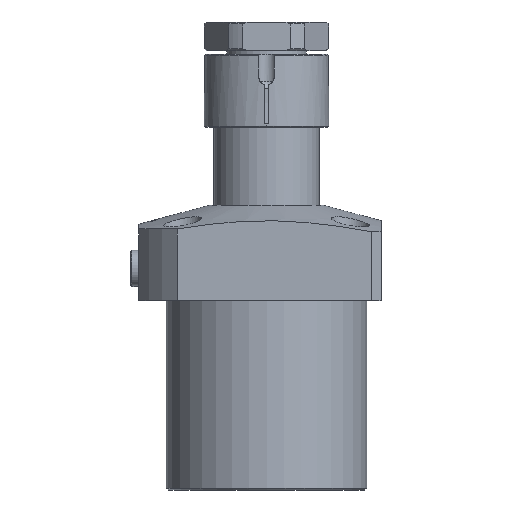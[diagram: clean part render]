
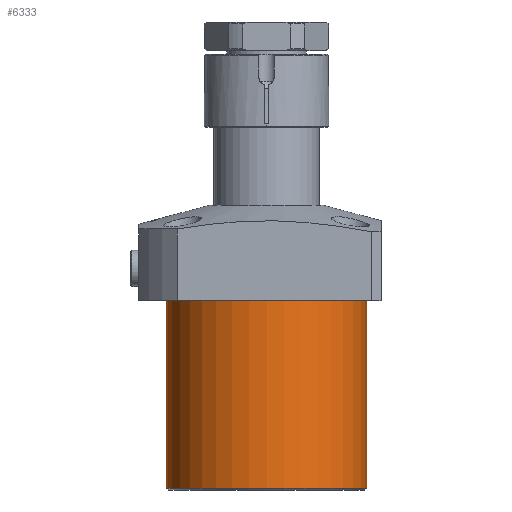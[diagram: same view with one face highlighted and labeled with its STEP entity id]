
A CAD part, front view. The second image highlights one B-rep face of the part: STEP entity #6333.
In plain terms, the highlighted cylindrical face has radius 52.5 mm (diameter 105 mm), a partial arc.
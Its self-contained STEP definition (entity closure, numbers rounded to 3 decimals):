
#152 = CARTESIAN_POINT ( 'NONE',  ( -52.5, 0., -99. ) ) ;
#398 = LINE ( 'NONE', #11545, #10554 ) ;
#441 = CARTESIAN_POINT ( 'NONE',  ( 52.5, 0., -98. ) ) ;
#489 = EDGE_LOOP ( 'NONE', ( #4831, #15829, #14100, #5090 ) ) ;
#742 = DIRECTION ( 'NONE',  ( 1., 0., 0. ) ) ;
#1530 = VERTEX_POINT ( 'NONE', #441 ) ;
#1568 = CARTESIAN_POINT ( 'NONE',  ( -52.5, 0., 0. ) ) ;
#1721 = CARTESIAN_POINT ( 'NONE',  ( 52.5, 0., 0. ) ) ;
#2366 = EDGE_CURVE ( 'NONE', #14462, #14338, #5284, .T. ) ;
#2450 = DIRECTION ( 'NONE',  ( 0., 0., -1. ) ) ;
#4114 = DIRECTION ( 'NONE',  ( 0., 0., 1. ) ) ;
#4831 = ORIENTED_EDGE ( 'NONE', *, *, #2366, .F. ) ;
#5090 = ORIENTED_EDGE ( 'NONE', *, *, #5976, .T. ) ;
#5116 = AXIS2_PLACEMENT_3D ( 'NONE', #15224, #6063, #742 ) ;
#5284 = LINE ( 'NONE', #152, #5686 ) ;
#5443 = DIRECTION ( 'NONE',  ( 0., 0., 1. ) ) ;
#5686 = VECTOR ( 'NONE', #5443, 1000. ) ;
#5976 = EDGE_CURVE ( 'NONE', #7303, #14338, #6706, .T. ) ;
#6063 = DIRECTION ( 'NONE',  ( 0., 0., 1. ) ) ;
#6157 = CIRCLE ( 'NONE', #11321, 52.5 ) ;
#6333 = ADVANCED_FACE ( 'NONE', ( #8123 ), #10802, .T. ) ;
#6706 = CIRCLE ( 'NONE', #7199, 52.5 ) ;
#7163 = CARTESIAN_POINT ( 'NONE',  ( -52.5, 0., -98. ) ) ;
#7199 = AXIS2_PLACEMENT_3D ( 'NONE', #10361, #2450, #11681 ) ;
#7303 = VERTEX_POINT ( 'NONE', #1721 ) ;
#8123 = FACE_OUTER_BOUND ( 'NONE', #489, .T. ) ;
#8900 = DIRECTION ( 'NONE',  ( 0., 0., 1. ) ) ;
#9904 = EDGE_CURVE ( 'NONE', #1530, #7303, #398, .T. ) ;
#10361 = CARTESIAN_POINT ( 'NONE',  ( 0., 0., 0. ) ) ;
#10554 = VECTOR ( 'NONE', #8900, 1000. ) ;
#10642 = EDGE_CURVE ( 'NONE', #14462, #1530, #6157, .T. ) ;
#10802 = CYLINDRICAL_SURFACE ( 'NONE', #5116, 52.5 ) ;
#11321 = AXIS2_PLACEMENT_3D ( 'NONE', #12038, #4114, #13364 ) ;
#11545 = CARTESIAN_POINT ( 'NONE',  ( 52.5, 0., -99. ) ) ;
#11681 = DIRECTION ( 'NONE',  ( -1., 0., 0. ) ) ;
#12038 = CARTESIAN_POINT ( 'NONE',  ( 0., 0., -98. ) ) ;
#13364 = DIRECTION ( 'NONE',  ( -1., 0., 0. ) ) ;
#14100 = ORIENTED_EDGE ( 'NONE', *, *, #9904, .T. ) ;
#14338 = VERTEX_POINT ( 'NONE', #1568 ) ;
#14462 = VERTEX_POINT ( 'NONE', #7163 ) ;
#15224 = CARTESIAN_POINT ( 'NONE',  ( 0., 0., -99. ) ) ;
#15829 = ORIENTED_EDGE ( 'NONE', *, *, #10642, .T. ) ;
